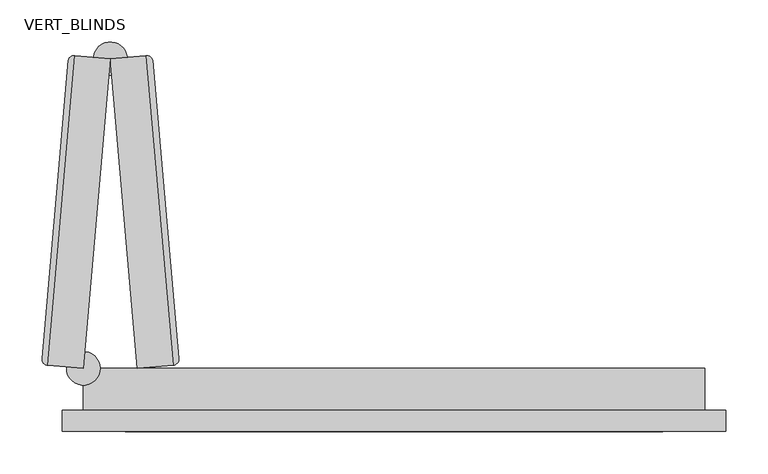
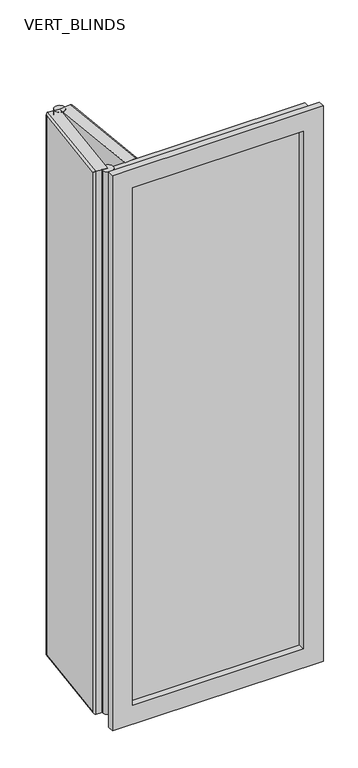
"""IFC4 building model written with IfcOpenShell, lengths in millimetres: plate geometry, CURTAIN PANEL VODA STYLE BIFOLDING : VERT_BLINDS."""

from ifc_helpers import new_model, si_unit, point, frame, frame_2d, origin, place, context, project, spatial, polyline, circle_curve, ellipse_curve, trimmed, segment, composite_curve, outline, extrude, faceted_brep, source, transform, mapped, element, save
from ifc_brep_helpers import plane_surface, cylinder_surface, advanced_brep


def vert_blinds_3b0b8ee7(model_context):
    return source(origin(), model_context, "Body", "SolidModel", [
        advanced_brep(
        [(-369.9584975, 50.0, 2175.0), (-337.7144899, 418.5506938, 2175.0), (-380.0527646, 422.2548128, 2175.0), (-412.2967722, 53.7041191, 2175.0), (-337.7144899, 418.5506938, 25.0), (-369.9584975, 50.0, 25.0), (-412.2967722, 53.7041191, 25.0), (-380.0527646, 422.2548128, 25.0), (-419.1145644, 61.8292474, 32.5), (-419.1145644, 61.8292474, 2167.5), (-388.1778929, 415.4370207, 2167.5), (-388.1778929, 415.4370207, 32.5)],
        [
            (0, 1),
            (1, 2),
            (2, 3),
            (3, 0),
            (4, 5),
            (5, 6),
            (6, 7),
            (7, 4),
            (1, 4),
            (7, 2),
            (8, 9),
            (9, 10),
            (10, 11),
            (11, 8),
            (5, 0),
            (3, 6),
            (8, 6, ellipse_curve(frame((-411.6431041, 61.1755793, 32.5), z_axis=(-0.061628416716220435, -0.7044160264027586, 0.7071067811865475), x_axis=(-0.061628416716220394, -0.7044160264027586, -0.7071067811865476)), 10.6066017, 7.5)),
            (3, 9, ellipse_curve(frame((-411.6431041, 61.1755793, 2167.5), z_axis=(-0.061628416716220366, -0.7044160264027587, -0.7071067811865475), x_axis=(0.06162841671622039, 0.7044160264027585, -0.7071067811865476)), 10.6066017, 7.5)),
            (11, 7, ellipse_curve(frame((-380.7064326, 414.7833526, 32.5), z_axis=(-0.06162841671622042, -0.7044160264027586, -0.7071067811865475), x_axis=(0.0616284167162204, 0.7044160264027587, -0.7071067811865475)), 10.6066017, 7.5)),
            (10, 2, ellipse_curve(frame((-380.7064326, 414.7833526, 2167.5), z_axis=(0.06162841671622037, 0.7044160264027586, -0.7071067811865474), x_axis=(0.06162841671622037, 0.7044160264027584, 0.7071067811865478)), 10.6066017, 7.5)),
        ],
        [
            plane_surface(frame((-387.5242248, 422.9084809, 2175.0), z_axis=(0.0, 0.0, 1.0), x_axis=(-0.9961946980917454, 0.0871557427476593, 0.0))),
            plane_surface(frame((-387.5242248, 422.9084809, 25.0), z_axis=(0.0, 0.0, -1.0), x_axis=(0.9961946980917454, -0.0871557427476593, 0.0))),
            plane_surface(frame((-337.7144899, 418.5506938, 2175.0), z_axis=(0.0871557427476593, 0.9961946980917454, 0.0), x_axis=(0.0, 0.0, -1.0))),
            plane_surface(frame((-387.5242248, 422.9084809, 2175.0), z_axis=(-0.9961946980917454, 0.08715574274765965, 0.0), x_axis=(0.0, 0.0, -1.0))),
            plane_surface(frame((-419.7682325, 54.3577871, 2175.0), z_axis=(-0.08715574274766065, -0.9961946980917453, 0.0), x_axis=(0.0, 0.0, -1.0))),
            plane_surface(frame((-369.9584975, 50.0, 2175.0), z_axis=(0.9961946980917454, -0.08715574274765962, 0.0), x_axis=(0.0, 0.0, -1.0))),
            cylinder_surface(frame((-411.6431041, 61.1755793, 2175.0), z_axis=(0.0, 0.0, -1.0000000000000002), x_axis=(0.9961946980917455, -0.08715574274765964, 0.0)), 7.5),
            cylinder_surface(frame((-412.2967722, 53.7041191, 32.5), z_axis=(0.08715574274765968, 0.9961946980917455, 0.0), x_axis=(0.9961946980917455, -0.08715574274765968, 0.0)), 7.5),
            cylinder_surface(frame((-380.7064326, 414.7833526, 25.0), z_axis=(0.0, 0.0, 1.0000000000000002), x_axis=(0.9961946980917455, -0.08715574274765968, 0.0)), 7.5),
            cylinder_surface(frame((-380.0527646, 422.2548128, 2167.5), z_axis=(-0.08715574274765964, -0.9961946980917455, 0.0), x_axis=(0.9961946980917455, -0.08715574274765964, 0.0)), 7.5),
        ],
        [
            (0, [[1, 2, 3, 4]]),
            (1, [[5, 6, 7, 8]]),
            (2, [[9, -8, 10, -2]]),
            (3, [[11, 12, 13, 14]]),
            (4, [[15, -4, 16, -6]]),
            (5, [[-1, -15, -5, -9]]),
            (6, [[17, -16, 18, -11]]),
            (7, [[-17, -14, 19, -7]]),
            (8, [[-19, -13, 20, -10]]),
            (9, [[-18, -3, -20, -12]]),
        ],
    ),
        advanced_brep(
        [(-337.7144899, 418.5506938, 2175.0), (-305.4704823, 50.0, 2175.0), (-263.1322076, 53.7041191, 2175.0), (-295.3762152, 422.2548128, 2175.0), (-305.4704823, 50.0, 25.0), (-337.7144899, 418.5506938, 25.0), (-295.3762152, 422.2548128, 25.0), (-263.1322076, 53.7041191, 25.0), (-287.2510869, 415.4370207, 32.5), (-287.2510869, 415.4370207, 2167.5), (-256.3144154, 61.8292474, 2167.5), (-256.3144154, 61.8292474, 32.5)],
        [
            (0, 1),
            (1, 2),
            (2, 3),
            (3, 0),
            (4, 5),
            (5, 6),
            (6, 7),
            (7, 4),
            (1, 4),
            (7, 2),
            (8, 9),
            (9, 10),
            (10, 11),
            (11, 8),
            (5, 0),
            (3, 6),
            (8, 6, ellipse_curve(frame((-294.7225472, 414.7833526, 32.5), z_axis=(-0.0616284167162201, 0.7044160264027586, 0.7071067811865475), x_axis=(-0.06162841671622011, 0.7044160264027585, -0.7071067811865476)), 10.6066017, 7.5)),
            (3, 9, ellipse_curve(frame((-294.7225472, 414.7833526, 2167.5), z_axis=(-0.06162841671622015, 0.7044160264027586, -0.7071067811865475), x_axis=(0.061628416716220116, -0.7044160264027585, -0.7071067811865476)), 10.6066017, 7.5)),
            (11, 7, ellipse_curve(frame((-263.7858757, 61.1755793, 32.5), z_axis=(-0.06162841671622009, 0.7044160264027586, -0.7071067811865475), x_axis=(0.06162841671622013, -0.7044160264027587, -0.7071067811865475)), 10.6066017, 7.5)),
            (10, 2, ellipse_curve(frame((-263.7858757, 61.1755793, 2167.5), z_axis=(0.06162841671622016, -0.7044160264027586, -0.7071067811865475), x_axis=(0.06162841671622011, -0.7044160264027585, 0.7071067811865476)), 10.6066017, 7.5)),
        ],
        [
            plane_surface(frame((-255.6607474, 54.3577871, 2175.0), z_axis=(0.0, 0.0, 1.0), x_axis=(0.9961946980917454, 0.087155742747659, 0.0))),
            plane_surface(frame((-255.6607474, 54.3577871, 25.0), z_axis=(0.0, 0.0, -1.0), x_axis=(-0.9961946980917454, -0.087155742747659, 0.0))),
            plane_surface(frame((-305.4704823, 50.0, 2175.0), z_axis=(0.087155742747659, -0.9961946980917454, 0.0), x_axis=(0.0, 0.0, -1.0))),
            plane_surface(frame((-255.6607474, 54.3577871, 2175.0), z_axis=(0.9961946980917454, 0.08715574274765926, 0.0), x_axis=(0.0, 0.0, -1.0))),
            plane_surface(frame((-287.904755, 422.9084809, 2175.0), z_axis=(-0.08715574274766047, 0.9961946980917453, 0.0), x_axis=(0.0, 0.0, -1.0))),
            plane_surface(frame((-337.7144899, 418.5506938, 2175.0), z_axis=(-0.9961946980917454, -0.0871557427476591, 0.0), x_axis=(0.0, 0.0, -1.0))),
            cylinder_surface(frame((-294.7225472, 414.7833526, 2175.0), z_axis=(0.0, 0.0, -1.0000000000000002), x_axis=(-0.9961946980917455, -0.08715574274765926, 0.0)), 7.5),
            cylinder_surface(frame((-295.3762152, 422.2548128, 32.5), z_axis=(0.08715574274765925, -0.9961946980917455, 0.0), x_axis=(-0.9961946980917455, -0.08715574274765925, 0.0)), 7.5),
            cylinder_surface(frame((-263.7858757, 61.1755793, 25.0), z_axis=(0.0, 0.0, 1.0000000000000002), x_axis=(-0.9961946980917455, -0.08715574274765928, 0.0)), 7.5),
            cylinder_surface(frame((-263.1322076, 53.7041191, 2167.5), z_axis=(-0.08715574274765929, 0.9961946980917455, 0.0), x_axis=(-0.9961946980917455, -0.08715574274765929, 0.0)), 7.5),
        ],
        [
            (0, [[1, 2, 3, 4]]),
            (1, [[5, 6, 7, 8]]),
            (2, [[9, -8, 10, -2]]),
            (3, [[11, 12, 13, 14]]),
            (4, [[15, -4, 16, -6]]),
            (5, [[-1, -15, -5, -9]]),
            (6, [[17, -16, 18, -11]]),
            (7, [[-17, -14, 19, -7]]),
            (8, [[-19, -13, 20, -10]]),
            (9, [[-18, -3, -20, -12]]),
        ],
    ),
        extrude(outline(composite_curve([segment(trimmed(circle_curve(frame_2d((-369.9584975, 50.0)), 20.0), [point((-389.9584975, 50.0))], [point((-349.9584975, 50.0))], False, "CARTESIAN"), True, "CONTINUOUS"), segment(trimmed(circle_curve(frame_2d((-369.9584975, 50.0)), 20.0), [point((-349.9584975, 50.0))], [point((-389.9584975, 50.0))], False, "CARTESIAN"), True, "CONTINUOUS")], self_intersect=False)), frame((0.0, 0.0, 25.0), z_axis=(0.0, 0.0, 1.0), x_axis=(1.0, 0.0, 0.0)), (0.0, 0.0, 1.0), 2150.0),
        extrude(outline(composite_curve([segment(trimmed(circle_curve(frame_2d((-337.7144899, 418.5506938)), 20.0), [point((-339.4576048, 398.6267998))], [point((-335.9713751, 438.4745877))], False, "CARTESIAN"), True, "CONTINUOUS"), segment(trimmed(circle_curve(frame_2d((-337.7144899, 418.5506938)), 20.0), [point((-335.9713751, 438.4745877))], [point((-339.4576048, 398.6267998))], False, "CARTESIAN"), True, "CONTINUOUS")], self_intersect=False)), frame((0.0, 0.0, 25.0), z_axis=(0.0, 0.0, 1.0), x_axis=(1.0, 0.0, 0.0)), (0.0, 0.0, 1.0), 2150.0),
        extrude(outline(polyline([(-319.9584975, 24.0), (319.9584975, 24.0), (319.9584975, 0.0), (-319.9584975, 0.0), (-319.9584975, 24.0)])), frame((0.0, 0.0, 75.0), z_axis=(0.0, 0.0, 1.0), x_axis=(1.0, 0.0, 0.0)), (0.0, 0.0, 1.0), 2050.0),
        faceted_brep([(-319.9584975, 50.0, 2125.0), (-319.9584975, -25.0, 2125.0), (-319.9584975, -25.0, 75.0), (-319.9584975, 50.0, 75.0), (-394.9584975, -25.0, 2200.0), (-394.9584975, 0.0, 2200.0), (-394.9584975, 0.0, 0.0), (-394.9584975, -25.0, 0.0), (-369.9584975, 0.0, 2175.0), (-369.9584975, 50.0, 2175.0), (-369.9584975, 50.0, 25.0), (-369.9584975, 0.0, 25.0), (319.9584975, -25.0, 75.0), (319.9584975, 50.0, 75.0), (394.9584975, 0.0, 0.0), (394.9584975, -25.0, 0.0), (369.9584975, 50.0, 25.0), (369.9584975, 0.0, 25.0), (319.9584975, -25.0, 2125.0), (319.9584975, 50.0, 2125.0), (394.9584975, 0.0, 2200.0), (394.9584975, -25.0, 2200.0), (369.9584975, 50.0, 2175.0), (369.9584975, 0.0, 2175.0)], [[[0, 1, 2, 3]], [[4, 5, 6, 7]], [[8, 9, 10, 11]], [[3, 2, 12, 13]], [[7, 6, 14, 15]], [[11, 10, 16, 17]], [[13, 12, 18, 19]], [[15, 14, 20, 21]], [[17, 16, 22, 23]], [[9, 22, 16, 10], [3, 13, 19, 0]], [[19, 18, 1, 0]], [[7, 15, 21, 4], [1, 18, 12, 2]], [[21, 20, 5, 4]], [[5, 20, 14, 6], [11, 17, 23, 8]], [[23, 22, 9, 8]]]),
    ])


if __name__ == "__main__":
    model = new_model("IFC4")
    model_context = context("Model", 3, world=origin())
    ifc_project = project(units=[si_unit("LENGTHUNIT", "METRE", prefix="MILLI")], contexts=[model_context])
    site = spatial("IfcSite", under=ifc_project)
    building = spatial("IfcBuilding", under=site)
    placement = place(None, origin())
    vert_blinds_shape = vert_blinds_3b0b8ee7(model_context)
    element("IfcPlate", 1, ObjectType="CURTAIN PANEL VODA STYLE BIFOLDING : VERT_BLINDS", at=placement, inside=building, context=model_context, shape_type="MappedRepresentation", body=[
        mapped(vert_blinds_shape, transform((0.0, 0.0, 0.0), x_axis=(1.0, 0.0, 0.0), y_axis=(0.0, 1.0, 0.0), z_axis=(0.0, 0.0, 1.0))),
    ])
    save(model, "model.ifc")
